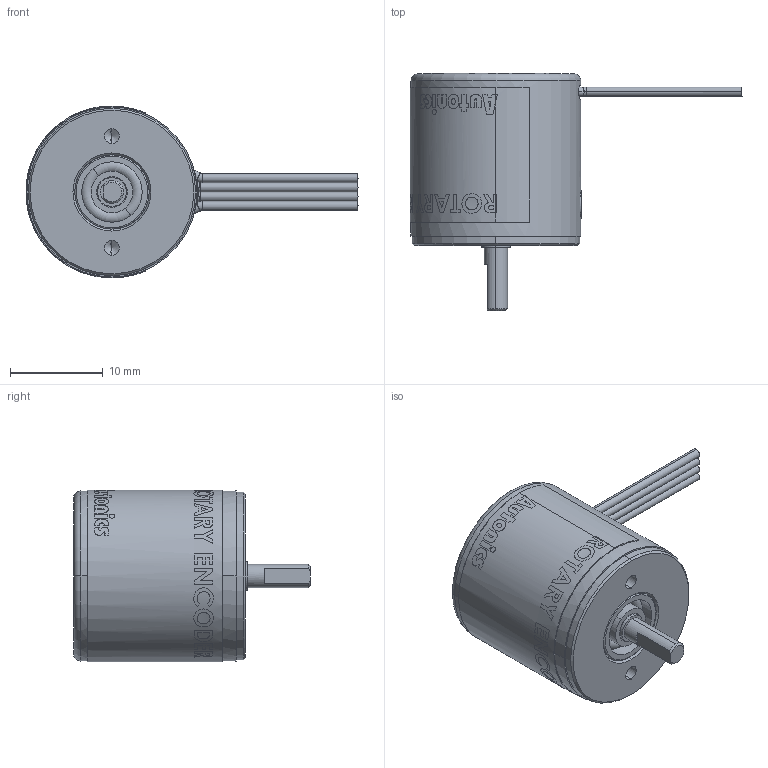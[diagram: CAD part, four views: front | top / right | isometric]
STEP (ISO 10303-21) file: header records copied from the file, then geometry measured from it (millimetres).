
FILE_DESCRIPTION (( 'STEP AP214' ), '1' );
FILE_NAME ('E18S2.5-100-1-N-5-S_E18S2.5-200-1-N-5-S_E18S2.5-300-1-N-5-S_(5).STEP', '2019-06-18T00:13:20', ( '' ), ( '' ), 'SwSTEP 2.0', 'SolidWorks 2018', '' );
FILE_SCHEMA (( 'AUTOMOTIVE_DESIGN' ));
Length unit declared in the file: inch
Products named in the file (1): E18S2.5-100-1-N-5-S_E18S2.5-200-1-N-5-S_E18S2.5-300-1-N-5-S_(5)
Bounding box: 35.73 x 25.5 x 18.5 mm (x, y, z)
Volume: 4928.9 mm3; surface area: 2005.2 mm2
Topology: 1 solids, 4 shells, 182 faces, 577 edges, 436 vertices
Faces by surface type: cylinder 88, plane 48, cone 24, torus 22
Entity records: 9964 total; most frequent: CARTESIAN_POINT 3179, ORIENTED_EDGE 1142, DIRECTION 1014, EDGE_CURVE 571, VERTEX_POINT 436, AXIS2_PLACEMENT_3D 417, CIRCLE 234, EDGE_LOOP 223
